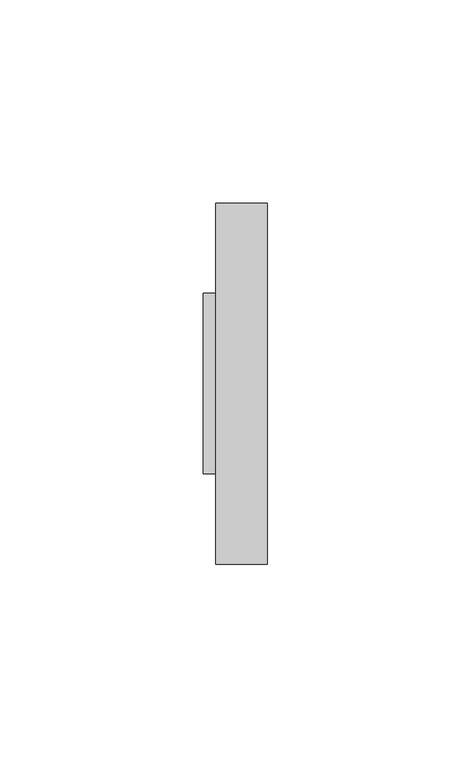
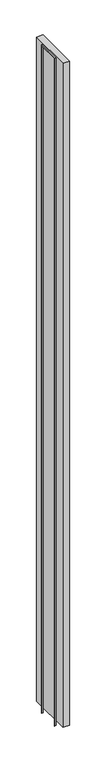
"""IFC4 building model written with IfcOpenShell, lengths in millimetres: furniture geometry."""

import ifcopenshell
import ifcopenshell.guid

model = None  # the IFC model being written
_history = None  # IfcOwnerHistory: only IFC2X3 demands one
_inside = {}  # id of a spatial element -> (the spatial element, [elements in it])
_under = {}  # id of a project, library or spatial element -> (it, [spatial elements below it])
_declared = {}  # id of a project -> (the project, [libraries it declares])
_typed = {}  # id of a type object -> (the type object, [elements of that type])
_made_of = {}  # id of a material, layer set ... -> (it, [elements and type objects made of it])


def new_model(schema):
    """Start an empty IFC model of exactly this schema.

    Asked for "IFC4X3", IfcOpenShell would pick the latest addendum, in which some entities
    have other attributes; the version numbers below select the first issue.
    IFC2X3 requires an IfcOwnerHistory on every rooted entity: one is made here for all.
    """
    global model, _history
    if schema == "IFC4X3":
        model = ifcopenshell.file(schema_version=(4, 3, 0, 0))
    else:
        model = ifcopenshell.file(schema=schema)
    _inside.clear()
    _under.clear()
    _declared.clear()
    _typed.clear()
    _made_of.clear()
    _history = None
    if model.schema == "IFC2X3":
        org = make("IfcOrganization", Name="unknown")
        user = make(
            "IfcPersonAndOrganization",
            ThePerson=make("IfcPerson", FamilyName="unknown"),
            TheOrganization=org,
        )
        app = make(
            "IfcApplication",
            ApplicationDeveloper=org,
            Version="unknown",
            ApplicationFullName="unknown",
            ApplicationIdentifier="unknown",
        )
        _history = make(
            "IfcOwnerHistory",
            OwningUser=user,
            OwningApplication=app,
            ChangeAction="ADDED",
            CreationDate=0,
        )
    return model


def make(cls, **values):
    """One entity of the class cls with the attributes given. An attribute that is None is left unset."""
    return model.create_entity(
        cls, **{name: value for name, value in values.items() if value is not None}
    )


def rooted(cls, **values):
    """An entity with a GlobalId (a new one), such as an element, a storey or a relation."""
    return make(cls, GlobalId=ifcopenshell.guid.new(), OwnerHistory=_history, **values)


def si_unit(unit_type, name, prefix=None):
    """IfcSIUnit, for example si_unit("LENGTHUNIT", "METRE", prefix="MILLI")."""
    return make("IfcSIUnit", UnitType=unit_type, Prefix=prefix, Name=name)


def assignment(units):
    """IfcUnitAssignment: the units of a project."""
    return None if units is None else make("IfcUnitAssignment", Units=units)


def point(xyz):
    """IfcCartesianPoint."""
    return None if xyz is None else make("IfcCartesianPoint", Coordinates=xyz)


def direction(xyz):
    """IfcDirection."""
    return None if xyz is None else make("IfcDirection", DirectionRatios=xyz)


def frame(location, z_axis=None, x_axis=None):
    """IfcAxis2Placement3D, a coordinate frame: its origin and axes. An axis left out is left unset."""
    return make(
        "IfcAxis2Placement3D",
        Location=point(location),
        Axis=direction(z_axis),
        RefDirection=direction(x_axis),
    )


def origin():
    """The frame at (0, 0, 0) with its axes left unset."""
    return frame((0.0, 0.0, 0.0))


def place(relative_to, where):
    """IfcLocalPlacement: puts the frame where relative to a parent placement (None: the world)."""
    return make(
        "IfcLocalPlacement", PlacementRelTo=relative_to, RelativePlacement=where
    )


def context(
    kind, dimensions, precision=None, world=None, true_north=None, identifier=None
):
    """IfcGeometricRepresentationContext, for example the 3D "Model" context."""
    return make(
        "IfcGeometricRepresentationContext",
        ContextIdentifier=identifier,
        ContextType=kind,
        CoordinateSpaceDimension=dimensions,
        Precision=precision,
        WorldCoordinateSystem=world,
        TrueNorth=true_north,
    )


def project(units=None, contexts=None):
    """IfcProject with its units and contexts."""
    return rooted(
        "IfcProject",
        Name="project",
        RepresentationContexts=contexts,
        UnitsInContext=assignment(units),
    )


def spatial(cls, under=None, at=None, **own):
    """A site, building, storey or space (cls), placed at a placement, below another one or the project."""
    s = rooted(cls, ObjectPlacement=at, **own)
    if under is not None:
        _under.setdefault(under.id(), (under, []))[1].append(s)
    return s


def polyline(points):
    """IfcPolyline through the points."""
    return make("IfcPolyline", Points=[point(p) for p in points])


def outline(outer, holes=None, kind="AREA"):
    """IfcArbitraryClosedProfileDef: a profile drawn as a closed curve; with holes, ...WithVoids."""
    if holes is None:
        return make("IfcArbitraryClosedProfileDef", ProfileType=kind, OuterCurve=outer)
    return make(
        "IfcArbitraryProfileDefWithVoids",
        ProfileType=kind,
        OuterCurve=outer,
        InnerCurves=holes,
    )


def extrude(swept, where, along, depth):
    """IfcExtrudedAreaSolid: the profile swept, set in the frame where, extruded along a direction by depth."""
    return make(
        "IfcExtrudedAreaSolid",
        SweptArea=swept,
        Position=where,
        ExtrudedDirection=direction(along),
        Depth=depth,
    )


def shape(context_of_items, identifier, shape_type, items):
    """IfcShapeRepresentation: the items that make up one representation, for example the "Body"."""
    return make(
        "IfcShapeRepresentation",
        ContextOfItems=context_of_items,
        RepresentationIdentifier=identifier,
        RepresentationType=shape_type,
        Items=items,
    )


def source(mapping_origin, context_of_items, identifier, shape_type, items):
    """IfcRepresentationMap: a shape defined once, which mapped items show again and again."""
    return make(
        "IfcRepresentationMap",
        MappingOrigin=mapping_origin,
        MappedRepresentation=shape(context_of_items, identifier, shape_type, items),
    )


def transform(
    local_origin,
    x_axis=None,
    y_axis=None,
    z_axis=None,
    scale=None,
    scale2=None,
    scale3=None,
    uniform=True,
):
    """IfcCartesianTransformationOperator3D, or its non-uniform kind. x_axis, y_axis, z_axis: its Axis1, 2, 3."""
    if uniform:
        return make(
            "IfcCartesianTransformationOperator3D",
            Axis1=direction(x_axis),
            Axis2=direction(y_axis),
            LocalOrigin=point(local_origin),
            Scale=scale,
            Axis3=direction(z_axis),
        )
    return make(
        "IfcCartesianTransformationOperator3DnonUniform",
        Axis1=direction(x_axis),
        Axis2=direction(y_axis),
        LocalOrigin=point(local_origin),
        Scale=scale,
        Axis3=direction(z_axis),
        Scale2=scale2,
        Scale3=scale3,
    )


def mapped(mapping_source, mapping_target):
    """IfcMappedItem: shows the shape of a source again, moved by a transform."""
    return make(
        "IfcMappedItem", MappingSource=mapping_source, MappingTarget=mapping_target
    )


def made_of(thing, what):
    """Note that an element or type object is made of a material, layer set ...; save() writes the relation."""
    if what is not None:
        _made_of.setdefault(what.id(), (what, []))[1].append(thing)
    return thing


def element(
    cls,
    number,
    at=None,
    inside=None,
    cuts=None,
    type_object=None,
    material=None,
    context=None,
    identifier="Body",
    shape_type=None,
    held_by="IfcProductDefinitionShape",
    body=None,
    shapes=None,
    **own,
):
    """One element of the class cls, such as IfcWall. Its Tag is "e" and its number.

    at: its placement. inside: the storey or other place that contains it. cuts: it is an
    opening in that element (IfcRelVoidsElement). A single representation is given by context,
    identifier, shape_type and body (its items); several are given by shapes. held_by: the class
    of the entity that holds the representations. save() writes the other relations.
    """
    e = rooted(cls, Tag="e%d" % number, ObjectPlacement=at, **own)
    if body is not None:
        shapes = [shape(context, identifier, shape_type, body)]
    if shapes is not None:
        e.Representation = make(held_by, Representations=shapes)
    if inside is not None:
        _inside.setdefault(inside.id(), (inside, []))[1].append(e)
    if cuts is not None:
        rooted(
            "IfcRelVoidsElement", RelatingBuildingElement=cuts, RelatedOpeningElement=e
        )
    if type_object is not None:
        _typed.setdefault(type_object.id(), (type_object, []))[1].append(e)
    return made_of(e, material)


def aggregate(whole, parts):
    """IfcRelAggregates: a whole, such as a stair, and the parts it consists of."""
    return rooted("IfcRelAggregates", RelatingObject=whole, RelatedObjects=parts)


def save(model, path):
    """Write the relations noted so far, then the file.

    IfcRelAggregates (storeys below a building ...), IfcRelContainedInSpatialStructure (elements
    in a storey), IfcRelDefinesByType, IfcRelAssociatesMaterial and IfcRelDeclares: one each for
    every whole, place, type object, material and project.
    """
    for whole, parts in _under.values():
        aggregate(whole, parts)
    for where, things in _inside.values():
        rooted(
            "IfcRelContainedInSpatialStructure",
            RelatedElements=things,
            RelatingStructure=where,
        )
    for kind, things in _typed.values():
        rooted("IfcRelDefinesByType", RelatedObjects=things, RelatingType=kind)
    for what, things in _made_of.values():
        rooted("IfcRelAssociatesMaterial", RelatedObjects=things, RelatingMaterial=what)
    for by, libraries in _declared.values():
        rooted("IfcRelDeclares", RelatingContext=by, RelatedDefinitions=libraries)
    model.write(path)


def furniture_1fd32b5c(model_context):
    return source(origin(), model_context, "Body", "SweptSolid", [
        extrude(outline(polyline([(16.4287944, 1370.0125), (16.4287944, 0.0), (15.6350444, 0.0), (15.6350444, 1369.21875), (-27.2274556, 1369.21875), (-27.2274556, 0.0), (-28.0212056, 0.0), (-28.0212056, 1370.0125), (16.4287944, 1370.0125)])), frame((-8.5456018, 0.0, 0.0), z_axis=(1.0, 0.0, 0.0), x_axis=(0.0, 1.0, 0.0)), (0.0, 0.0, 1.0), 3.175),
        extrude(outline(polyline([(7.3293982, 38.6537944), (7.3293982, -50.2462056), (-5.3706018, -50.2462056), (-5.3706018, 38.6537944), (7.3293982, 38.6537944)])), frame((0.0, 0.0, 9.525), z_axis=(0.0, 0.0, 1.0), x_axis=(1.0, 0.0, 0.0)), (0.0, 0.0, 1.0), 1362.075),
    ])


if __name__ == "__main__":
    model = new_model("IFC4")
    model_context = context("Model", 3, world=origin())
    ifc_project = project(units=[si_unit("LENGTHUNIT", "METRE", prefix="MILLI")], contexts=[model_context])
    site = spatial("IfcSite", under=ifc_project)
    building = spatial("IfcBuilding", under=site)
    placement = place(None, origin())
    furniture_shape = furniture_1fd32b5c(model_context)
    element("IfcFurniture", 1, ObjectType="HermanMiller_Ethospace_E1250_FinishedEnd : Std Ptd 54\"H", at=placement, inside=building, context=model_context, shape_type="MappedRepresentation", body=[
        mapped(furniture_shape, transform((0.0, 0.0, 0.0), x_axis=(1.0, 0.0, 0.0), y_axis=(0.0, 1.0, 0.0), z_axis=(0.0, 0.0, 1.0))),
    ])
    save(model, "model.ifc")
